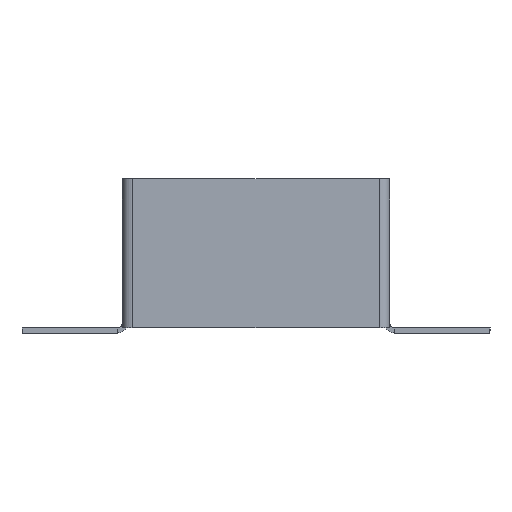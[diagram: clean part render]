
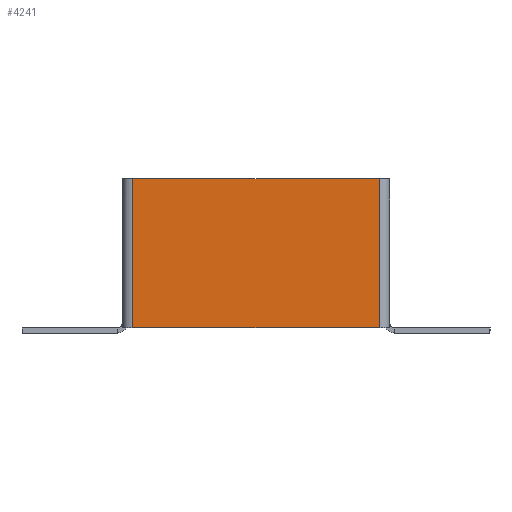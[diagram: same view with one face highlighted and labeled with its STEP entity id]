
A CAD part, front view. The second image highlights one B-rep face of the part: STEP entity #4241.
In plain terms, the highlighted planar face has unit normal (0, -1, 0).
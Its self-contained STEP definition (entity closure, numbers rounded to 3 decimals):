
#94 = CARTESIAN_POINT ( 'NONE',  ( -50., -2., 0. ) ) ;
#173 = CARTESIAN_POINT ( 'NONE',  ( -50., -2., -58. ) ) ;
#505 = FACE_OUTER_BOUND ( 'NONE', #2729, .T. ) ;
#907 = DIRECTION ( 'NONE',  ( 0., 0., -1. ) ) ;
#1078 = ORIENTED_EDGE ( 'NONE', *, *, #6488, .F. ) ;
#1581 = VERTEX_POINT ( 'NONE', #6547 ) ;
#1706 = CARTESIAN_POINT ( 'NONE',  ( -48., -2., 0. ) ) ;
#1782 = VERTEX_POINT ( 'NONE', #9747 ) ;
#2501 = CARTESIAN_POINT ( 'NONE',  ( 48., -2., -58. ) ) ;
#2593 = ORIENTED_EDGE ( 'NONE', *, *, #7536, .T. ) ;
#2706 = LINE ( 'NONE', #94, #8385 ) ;
#2729 = EDGE_LOOP ( 'NONE', ( #6126, #1078, #2593, #5759 ) ) ;
#2874 = EDGE_CURVE ( 'NONE', #2909, #1581, #9555, .T. ) ;
#2907 = VECTOR ( 'NONE', #6232, 1000. ) ;
#2909 = VERTEX_POINT ( 'NONE', #1706 ) ;
#2949 = PLANE ( 'NONE',  #3397 ) ;
#3397 = AXIS2_PLACEMENT_3D ( 'NONE', #4403, #7385, #9035 ) ;
#3466 = VERTEX_POINT ( 'NONE', #2501 ) ;
#4202 = CARTESIAN_POINT ( 'NONE',  ( 48., -2., -58. ) ) ;
#4241 = ADVANCED_FACE ( 'NONE', ( #505 ), #2949, .F. ) ;
#4403 = CARTESIAN_POINT ( 'NONE',  ( 0., -2., 0. ) ) ;
#5031 = EDGE_CURVE ( 'NONE', #2909, #1782, #2706, .T. ) ;
#5433 = CARTESIAN_POINT ( 'NONE',  ( -48., -2., 0. ) ) ;
#5683 = VECTOR ( 'NONE', #907, 1000. ) ;
#5759 = ORIENTED_EDGE ( 'NONE', *, *, #5031, .F. ) ;
#6126 = ORIENTED_EDGE ( 'NONE', *, *, #2874, .T. ) ;
#6232 = DIRECTION ( 'NONE',  ( -1., 0., 0. ) ) ;
#6488 = EDGE_CURVE ( 'NONE', #3466, #1581, #9502, .T. ) ;
#6547 = CARTESIAN_POINT ( 'NONE',  ( -48., -2., -58. ) ) ;
#6925 = DIRECTION ( 'NONE',  ( 1., 0., 0. ) ) ;
#7248 = VECTOR ( 'NONE', #9544, 1000. ) ;
#7385 = DIRECTION ( 'NONE',  ( 0., 1., 0. ) ) ;
#7536 = EDGE_CURVE ( 'NONE', #3466, #1782, #7735, .T. ) ;
#7735 = LINE ( 'NONE', #4202, #7248 ) ;
#8385 = VECTOR ( 'NONE', #6925, 1000. ) ;
#9035 = DIRECTION ( 'NONE',  ( 0., 0., 1. ) ) ;
#9502 = LINE ( 'NONE', #173, #2907 ) ;
#9544 = DIRECTION ( 'NONE',  ( 0., 0., 1. ) ) ;
#9555 = LINE ( 'NONE', #5433, #5683 ) ;
#9747 = CARTESIAN_POINT ( 'NONE',  ( 48., -2., 0. ) ) ;
